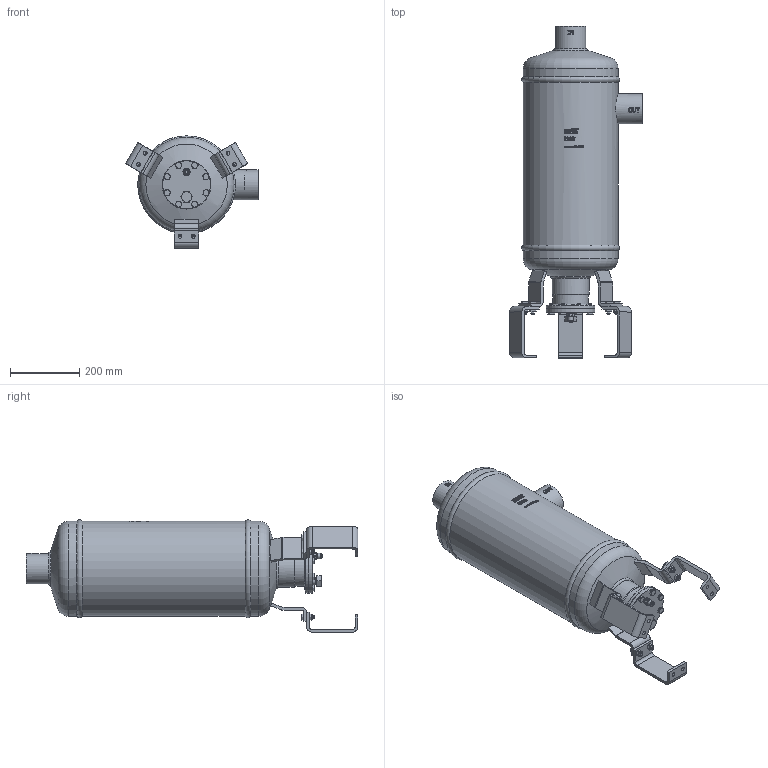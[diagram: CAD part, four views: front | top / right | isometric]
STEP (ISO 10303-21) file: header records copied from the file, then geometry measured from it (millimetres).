
FILE_DESCRIPTION(/* description */ (''),/* implementation_level */ '2;1');
FILE_NAME(/* name */ 'P:\OS\OS-80FX\OS-80FX.stp',/* time_stamp */ '2017-10-04T08:17:49+02:00',/* author */ ('neufeld'),/* organization */ (''),/* preprocessor_version */ 'ST-DEVELOPER v16.1',/* originating_system */ 'Autodesk Inventor 2016',/* authorisation */ '');
FILE_SCHEMA (('AUTOMOTIVE_DESIGN { 1 0 10303 214 3 1 1 }'));
Length unit declared in the file: millimetre
Products named in the file (2): OS-80FX; OS-80FX_1
Assembly tree (1 placements, depth 2):
  OS-80FX_1
    OS-80FX
Bounding box: 382.05 x 955.47 x 323.34 mm (x, y, z)
Volume: 38659266 mm3; surface area: 930082.5 mm2
Topology: 1 solids, 15 shells, 1584 faces, 4043 edges, 2647 vertices
Faces by surface type: plane 803, bspline 392, cylinder 213, cone 166, torus 8, sphere 2
Full cylindrical faces by diameter (mm): 7.2 x1, 9.188 x14, 10 x28, 10.3 x6, 10.5 x14, 11 x6, 13.5 x1, 15.4 x14, 15.7 x1, 19 x1, 22.5 x1, 25.2 x1, 80.3 x2, 87 x2, 102 x1, 106 x1, 135 x1, 140 x2, 273 x1, 273.2 x2
Entity records: 55175 total; most frequent: CARTESIAN_POINT 20246, ORIENTED_EDGE 7688, DIRECTION 6211, EDGE_CURVE 3844, VERTEX_POINT 2603, AXIS2_PLACEMENT_3D 2270, EDGE_LOOP 1937, LINE 1671
